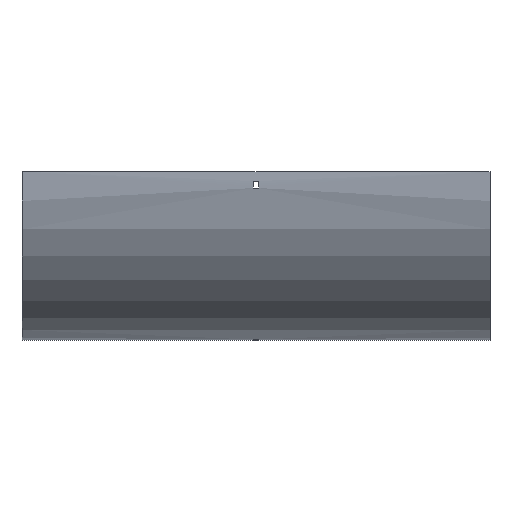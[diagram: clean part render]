
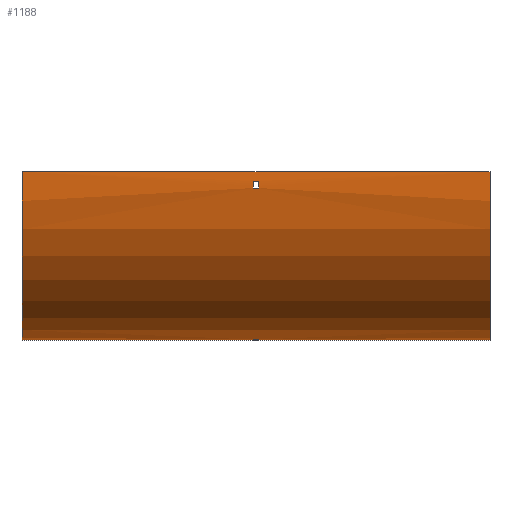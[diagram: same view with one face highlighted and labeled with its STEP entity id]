
A CAD part, front view. The second image highlights one B-rep face of the part: STEP entity #1188.
In plain terms, the highlighted cylindrical face has radius 217.5 mm (diameter 435 mm), a partial arc.
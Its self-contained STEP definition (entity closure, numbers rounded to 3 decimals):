
#26 = DIRECTION ( 'NONE',  ( 0., 0., -1. ) ) ;
#33 = LINE ( 'NONE', #1093, #506 ) ;
#76 = DIRECTION ( 'NONE',  ( 1., 0., 0. ) ) ;
#81 = VERTEX_POINT ( 'NONE', #1419 ) ;
#108 = DIRECTION ( 'NONE',  ( 0., 0., 1. ) ) ;
#140 = AXIS2_PLACEMENT_3D ( 'NONE', #215, #76, #339 ) ;
#187 = DIRECTION ( 'NONE',  ( -1., 0., 0. ) ) ;
#215 = CARTESIAN_POINT ( 'NONE',  ( 302., 100., 0. ) ) ;
#224 = EDGE_CURVE ( 'NONE', #1054, #528, #1437, .T. ) ;
#230 = AXIS2_PLACEMENT_3D ( 'NONE', #819, #839, #26 ) ;
#281 = FACE_BOUND ( 'NONE', #894, .T. ) ;
#288 = VERTEX_POINT ( 'NONE', #1639 ) ;
#291 = CIRCLE ( 'NONE', #1172, 217.5 ) ;
#330 = EDGE_CURVE ( 'NONE', #1259, #81, #465, .T. ) ;
#335 = ORIENTED_EDGE ( 'NONE', *, *, #383, .F. ) ;
#339 = DIRECTION ( 'NONE',  ( 0., 0., -1. ) ) ;
#343 = ORIENTED_EDGE ( 'NONE', *, *, #330, .T. ) ;
#354 = CARTESIAN_POINT ( 'NONE',  ( 302., 79., -216.484 ) ) ;
#371 = AXIS2_PLACEMENT_3D ( 'NONE', #1111, #1410, #1637 ) ;
#378 = ORIENTED_EDGE ( 'NONE', *, *, #718, .F. ) ;
#383 = EDGE_CURVE ( 'NONE', #1196, #1136, #639, .T. ) ;
#387 = CARTESIAN_POINT ( 'NONE',  ( 302., 100., -217.5 ) ) ;
#398 = FACE_OUTER_BOUND ( 'NONE', #472, .T. ) ;
#399 = VERTEX_POINT ( 'NONE', #795 ) ;
#403 = EDGE_CURVE ( 'NONE', #455, #399, #907, .T. ) ;
#442 = EDGE_CURVE ( 'NONE', #986, #528, #644, .T. ) ;
#455 = VERTEX_POINT ( 'NONE', #1560 ) ;
#465 = LINE ( 'NONE', #984, #1521 ) ;
#472 = EDGE_LOOP ( 'NONE', ( #979, #783, #378, #1305 ) ) ;
#485 = CARTESIAN_POINT ( 'NONE',  ( 302., 88., -217.169 ) ) ;
#491 = ORIENTED_EDGE ( 'NONE', *, *, #1258, .T. ) ;
#506 = VECTOR ( 'NONE', #1629, 1000. ) ;
#516 = CARTESIAN_POINT ( 'NONE',  ( 302., -117.169, -12. ) ) ;
#528 = VERTEX_POINT ( 'NONE', #801 ) ;
#546 = DIRECTION ( 'NONE',  ( 0., 0., 1. ) ) ;
#607 = LINE ( 'NONE', #485, #886 ) ;
#618 = EDGE_CURVE ( 'NONE', #288, #1054, #33, .T. ) ;
#639 = CIRCLE ( 'NONE', #860, 217.5 ) ;
#644 = LINE ( 'NONE', #387, #1439 ) ;
#661 = EDGE_CURVE ( 'NONE', #399, #1259, #1685, .T. ) ;
#694 = VECTOR ( 'NONE', #1296, 1000. ) ;
#704 = ORIENTED_EDGE ( 'NONE', *, *, #813, .F. ) ;
#710 = CARTESIAN_POINT ( 'NONE',  ( -302., -117.5, 0. ) ) ;
#718 = EDGE_CURVE ( 'NONE', #288, #986, #1327, .T. ) ;
#732 = CARTESIAN_POINT ( 'NONE',  ( 3.25, 100., 0. ) ) ;
#752 = LINE ( 'NONE', #354, #1386 ) ;
#758 = VERTEX_POINT ( 'NONE', #981 ) ;
#775 = DIRECTION ( 'NONE',  ( -1., 0., 0. ) ) ;
#783 = ORIENTED_EDGE ( 'NONE', *, *, #442, .F. ) ;
#795 = CARTESIAN_POINT ( 'NONE',  ( 3.25, -117.169, -12. ) ) ;
#801 = CARTESIAN_POINT ( 'NONE',  ( -302., 100., -217.5 ) ) ;
#805 = CYLINDRICAL_SURFACE ( 'NONE', #1574, 217.5 ) ;
#812 = DIRECTION ( 'NONE',  ( -1., 0., 0. ) ) ;
#813 = EDGE_CURVE ( 'NONE', #758, #1262, #1389, .T. ) ;
#819 = CARTESIAN_POINT ( 'NONE',  ( 3.25, 100., 0. ) ) ;
#834 = CARTESIAN_POINT ( 'NONE',  ( -3.25, 88., -217.169 ) ) ;
#839 = DIRECTION ( 'NONE',  ( 1., 0., 0. ) ) ;
#841 = ORIENTED_EDGE ( 'NONE', *, *, #1427, .F. ) ;
#850 = DIRECTION ( 'NONE',  ( 1., 0., 0. ) ) ;
#860 = AXIS2_PLACEMENT_3D ( 'NONE', #732, #895, #108 ) ;
#867 = DIRECTION ( 'NONE',  ( -1., 0., 0. ) ) ;
#868 = DIRECTION ( 'NONE',  ( 1., 0., 0. ) ) ;
#886 = VECTOR ( 'NONE', #868, 1000. ) ;
#894 = EDGE_LOOP ( 'NONE', ( #343, #491, #1155, #932 ) ) ;
#895 = DIRECTION ( 'NONE',  ( -1., 0., 0. ) ) ;
#907 = LINE ( 'NONE', #516, #694 ) ;
#932 = ORIENTED_EDGE ( 'NONE', *, *, #661, .T. ) ;
#971 = CARTESIAN_POINT ( 'NONE',  ( 3.25, -116.484, -21. ) ) ;
#979 = ORIENTED_EDGE ( 'NONE', *, *, #224, .T. ) ;
#981 = CARTESIAN_POINT ( 'NONE',  ( -3.25, 79., -216.484 ) ) ;
#984 = CARTESIAN_POINT ( 'NONE',  ( 302., -116.484, -21. ) ) ;
#986 = VERTEX_POINT ( 'NONE', #1601 ) ;
#1024 = ORIENTED_EDGE ( 'NONE', *, *, #1125, .F. ) ;
#1054 = VERTEX_POINT ( 'NONE', #710 ) ;
#1093 = CARTESIAN_POINT ( 'NONE',  ( 302., -117.5, 0. ) ) ;
#1111 = CARTESIAN_POINT ( 'NONE',  ( -3.25, 100., 0. ) ) ;
#1125 = EDGE_CURVE ( 'NONE', #1136, #758, #752, .T. ) ;
#1136 = VERTEX_POINT ( 'NONE', #1275 ) ;
#1148 = DIRECTION ( 'NONE',  ( 0., 0., 1. ) ) ;
#1155 = ORIENTED_EDGE ( 'NONE', *, *, #403, .T. ) ;
#1172 = AXIS2_PLACEMENT_3D ( 'NONE', #1202, #812, #1148 ) ;
#1188 = ADVANCED_FACE ( 'NONE', ( #398, #281, #1453 ), #805, .T. ) ;
#1195 = DIRECTION ( 'NONE',  ( -1., 0., 0. ) ) ;
#1196 = VERTEX_POINT ( 'NONE', #1668 ) ;
#1202 = CARTESIAN_POINT ( 'NONE',  ( -3.25, 100., 0. ) ) ;
#1241 = CARTESIAN_POINT ( 'NONE',  ( -302., 100., 0. ) ) ;
#1258 = EDGE_CURVE ( 'NONE', #81, #455, #291, .T. ) ;
#1259 = VERTEX_POINT ( 'NONE', #971 ) ;
#1262 = VERTEX_POINT ( 'NONE', #834 ) ;
#1275 = CARTESIAN_POINT ( 'NONE',  ( 3.25, 79., -216.484 ) ) ;
#1296 = DIRECTION ( 'NONE',  ( 1., 0., 0. ) ) ;
#1305 = ORIENTED_EDGE ( 'NONE', *, *, #618, .T. ) ;
#1327 = CIRCLE ( 'NONE', #140, 217.5 ) ;
#1342 = CARTESIAN_POINT ( 'NONE',  ( 302., 100., 0. ) ) ;
#1355 = AXIS2_PLACEMENT_3D ( 'NONE', #1241, #850, #1469 ) ;
#1386 = VECTOR ( 'NONE', #187, 1000. ) ;
#1389 = CIRCLE ( 'NONE', #371, 217.5 ) ;
#1410 = DIRECTION ( 'NONE',  ( 1., 0., 0. ) ) ;
#1419 = CARTESIAN_POINT ( 'NONE',  ( -3.25, -116.484, -21. ) ) ;
#1427 = EDGE_CURVE ( 'NONE', #1262, #1196, #607, .T. ) ;
#1430 = EDGE_LOOP ( 'NONE', ( #704, #1024, #335, #841 ) ) ;
#1437 = CIRCLE ( 'NONE', #1355, 217.5 ) ;
#1439 = VECTOR ( 'NONE', #775, 1000. ) ;
#1453 = FACE_BOUND ( 'NONE', #1430, .T. ) ;
#1469 = DIRECTION ( 'NONE',  ( 0., 0., -1. ) ) ;
#1521 = VECTOR ( 'NONE', #867, 1000. ) ;
#1560 = CARTESIAN_POINT ( 'NONE',  ( -3.25, -117.169, -12. ) ) ;
#1574 = AXIS2_PLACEMENT_3D ( 'NONE', #1342, #1195, #546 ) ;
#1601 = CARTESIAN_POINT ( 'NONE',  ( 302., 100., -217.5 ) ) ;
#1629 = DIRECTION ( 'NONE',  ( -1., 0., 0. ) ) ;
#1637 = DIRECTION ( 'NONE',  ( 0., 1., 0. ) ) ;
#1639 = CARTESIAN_POINT ( 'NONE',  ( 302., -117.5, 0. ) ) ;
#1668 = CARTESIAN_POINT ( 'NONE',  ( 3.25, 88., -217.169 ) ) ;
#1685 = CIRCLE ( 'NONE', #230, 217.5 ) ;
